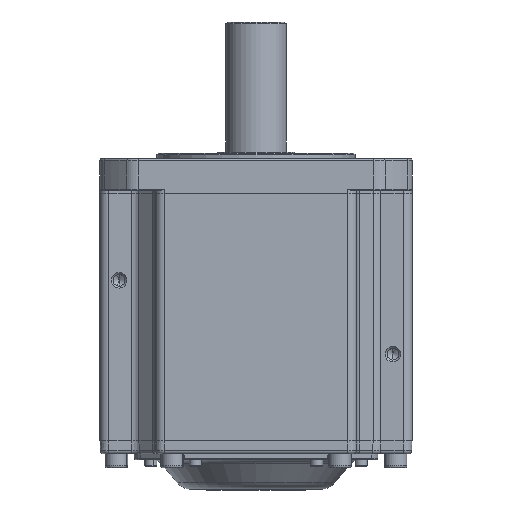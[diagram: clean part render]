
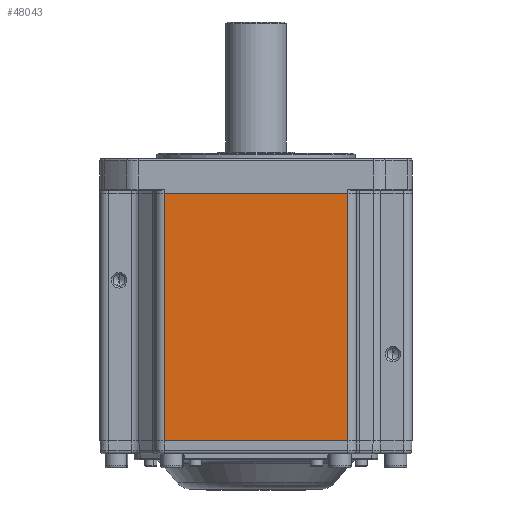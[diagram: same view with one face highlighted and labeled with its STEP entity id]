
A CAD part, front view. The second image highlights one B-rep face of the part: STEP entity #48043.
In plain terms, the highlighted planar face has unit normal (0, -1, 0).
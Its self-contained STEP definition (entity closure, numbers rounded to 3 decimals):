
#410 = LINE ( 'NONE', #48708, #60497 ) ;
#2291 = VERTEX_POINT ( 'NONE', #40447 ) ;
#2829 = FACE_OUTER_BOUND ( 'NONE', #53590, .T. ) ;
#3451 = LINE ( 'NONE', #4097, #28066 ) ;
#4097 = CARTESIAN_POINT ( 'NONE',  ( -52.974, -89.007, -896.673 ) ) ;
#4326 = EDGE_CURVE ( 'NONE', #38633, #2291, #62521, .T. ) ;
#5364 = DIRECTION ( 'NONE',  ( 1., 0., 0. ) ) ;
#5400 = EDGE_CURVE ( 'NONE', #51516, #38633, #3451, .T. ) ;
#5665 = ORIENTED_EDGE ( 'NONE', *, *, #60817, .T. ) ;
#5997 = CARTESIAN_POINT ( 'NONE',  ( 53.026, -89.007, -896.673 ) ) ;
#8586 = CARTESIAN_POINT ( 'NONE',  ( 58.026, -89.007, -896.673 ) ) ;
#9605 = ORIENTED_EDGE ( 'NONE', *, *, #49904, .T. ) ;
#15306 = CARTESIAN_POINT ( 'NONE',  ( -52.974, -89.007, 103.327 ) ) ;
#18249 = PLANE ( 'NONE',  #59840 ) ;
#18581 = CARTESIAN_POINT ( 'NONE',  ( 53.026, -89.007, 103.327 ) ) ;
#19109 = ORIENTED_EDGE ( 'NONE', *, *, #4326, .T. ) ;
#20187 = DIRECTION ( 'NONE',  ( 0., 0., -1. ) ) ;
#23412 = LINE ( 'NONE', #5997, #26459 ) ;
#26459 = VECTOR ( 'NONE', #50327, 1000. ) ;
#28066 = VECTOR ( 'NONE', #20187, 1000. ) ;
#30341 = VERTEX_POINT ( 'NONE', #18581 ) ;
#34044 = DIRECTION ( 'NONE',  ( -1., 0., 0. ) ) ;
#36223 = CARTESIAN_POINT ( 'NONE',  ( -52.974, -89.007, -39.273 ) ) ;
#36335 = VECTOR ( 'NONE', #5364, 1000. ) ;
#37158 = ORIENTED_EDGE ( 'NONE', *, *, #5400, .T. ) ;
#38633 = VERTEX_POINT ( 'NONE', #36223 ) ;
#40447 = CARTESIAN_POINT ( 'NONE',  ( 53.026, -89.007, -39.273 ) ) ;
#43688 = CARTESIAN_POINT ( 'NONE',  ( -154.318, -89.007, -39.273 ) ) ;
#48043 = ADVANCED_FACE ( 'NONE', ( #2829 ), #18249, .F. ) ;
#48708 = CARTESIAN_POINT ( 'NONE',  ( 58.026, -89.007, 103.327 ) ) ;
#49904 = EDGE_CURVE ( 'NONE', #2291, #30341, #23412, .T. ) ;
#50327 = DIRECTION ( 'NONE',  ( 0., 0., 1. ) ) ;
#51516 = VERTEX_POINT ( 'NONE', #15306 ) ;
#52711 = DIRECTION ( 'NONE',  ( 0., 1., 0. ) ) ;
#53345 = DIRECTION ( 'NONE',  ( 0., 0., -1. ) ) ;
#53590 = EDGE_LOOP ( 'NONE', ( #37158, #19109, #9605, #5665 ) ) ;
#59840 = AXIS2_PLACEMENT_3D ( 'NONE', #8586, #52711, #53345 ) ;
#60497 = VECTOR ( 'NONE', #34044, 1000. ) ;
#60817 = EDGE_CURVE ( 'NONE', #30341, #51516, #410, .T. ) ;
#62521 = LINE ( 'NONE', #43688, #36335 ) ;
